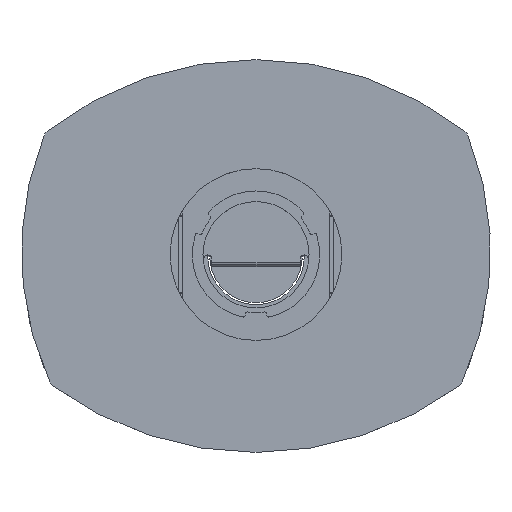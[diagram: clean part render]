
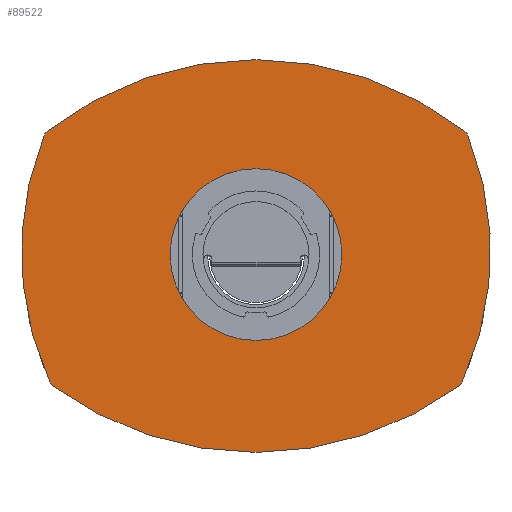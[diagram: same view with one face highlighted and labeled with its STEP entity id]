
A CAD part, top view. The second image highlights one B-rep face of the part: STEP entity #89522.
In plain terms, the highlighted planar face has unit normal (0, 0, 1).
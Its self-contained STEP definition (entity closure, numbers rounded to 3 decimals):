
#5939=CIRCLE('',#97417,89.);
#5942=CIRCLE('',#97421,10.);
#5943=CIRCLE('',#97423,355.);
#5944=CIRCLE('',#97424,10.);
#5945=CIRCLE('',#97425,323.);
#5946=CIRCLE('',#97426,10.);
#5947=CIRCLE('',#97427,352.);
#5948=CIRCLE('',#97428,10.);
#5949=CIRCLE('',#97429,323.);
#6333=FACE_BOUND('',#15813,.T.);
#10881=FACE_OUTER_BOUND('',#15812,.T.);
#15812=EDGE_LOOP('',(#77550,#77551,#77552,#77553,#77554,#77555,#77556,#77557));
#15813=EDGE_LOOP('',(#77558));
#40390=VERTEX_POINT('',#154618);
#40394=VERTEX_POINT('',#154627);
#40395=VERTEX_POINT('',#154629);
#40396=VERTEX_POINT('',#154633);
#40397=VERTEX_POINT('',#154635);
#40398=VERTEX_POINT('',#154637);
#40399=VERTEX_POINT('',#154639);
#40400=VERTEX_POINT('',#154641);
#40401=VERTEX_POINT('',#154643);
#52777=EDGE_CURVE('',#40390,#40390,#5939,.T.);
#52782=EDGE_CURVE('',#40394,#40395,#5942,.T.);
#52784=EDGE_CURVE('',#40396,#40394,#5943,.T.);
#52785=EDGE_CURVE('',#40397,#40396,#5944,.T.);
#52786=EDGE_CURVE('',#40398,#40397,#5945,.T.);
#52787=EDGE_CURVE('',#40399,#40398,#5946,.T.);
#52788=EDGE_CURVE('',#40400,#40399,#5947,.T.);
#52789=EDGE_CURVE('',#40401,#40400,#5948,.T.);
#52790=EDGE_CURVE('',#40395,#40401,#5949,.T.);
#77550=ORIENTED_EDGE('',*,*,#52782,.F.);
#77551=ORIENTED_EDGE('',*,*,#52784,.F.);
#77552=ORIENTED_EDGE('',*,*,#52785,.F.);
#77553=ORIENTED_EDGE('',*,*,#52786,.F.);
#77554=ORIENTED_EDGE('',*,*,#52787,.F.);
#77555=ORIENTED_EDGE('',*,*,#52788,.F.);
#77556=ORIENTED_EDGE('',*,*,#52789,.F.);
#77557=ORIENTED_EDGE('',*,*,#52790,.F.);
#77558=ORIENTED_EDGE('',*,*,#52777,.T.);
#80357=PLANE('',#97422);
#89522=ADVANCED_FACE('',(#10881,#6333),#80357,.F.);
#97417=AXIS2_PLACEMENT_3D('',#154619,#121342,#121343);
#97421=AXIS2_PLACEMENT_3D('',#154630,#121352,#121353);
#97422=AXIS2_PLACEMENT_3D('',#154632,#121355,#121356);
#97423=AXIS2_PLACEMENT_3D('',#154634,#121357,#121358);
#97424=AXIS2_PLACEMENT_3D('',#154636,#121359,#121360);
#97425=AXIS2_PLACEMENT_3D('',#154638,#121361,#121362);
#97426=AXIS2_PLACEMENT_3D('',#154640,#121363,#121364);
#97427=AXIS2_PLACEMENT_3D('',#154642,#121365,#121366);
#97428=AXIS2_PLACEMENT_3D('',#154644,#121367,#121368);
#97429=AXIS2_PLACEMENT_3D('',#154645,#121369,#121370);
#121342=DIRECTION('center_axis',(0.,0.,
-1.));
#121343=DIRECTION('ref_axis',(1.,0.,0.));
#121352=DIRECTION('center_axis',(0.,0.,
-1.));
#121353=DIRECTION('ref_axis',(-0.776,-0.631,0.));
#121355=DIRECTION('center_axis',(0.,0.,
-1.));
#121356=DIRECTION('ref_axis',(1.,0.,0.));
#121357=DIRECTION('center_axis',(0.,0.,
-1.));
#121358=DIRECTION('ref_axis',(0.599,-0.801,0.));
#121359=DIRECTION('center_axis',(0.,0.,
-1.));
#121360=DIRECTION('ref_axis',(0.776,-0.631,0.));
#121361=DIRECTION('center_axis',(0.,0.,
-1.));
#121362=DIRECTION('ref_axis',(0.924,0.382,0.));
#121363=DIRECTION('center_axis',(0.,0.,
-1.));
#121364=DIRECTION('ref_axis',(0.798,0.602,0.));
#121365=DIRECTION('center_axis',(0.,0.,
-1.));
#121366=DIRECTION('ref_axis',(-0.621,0.784,0.));
#121367=DIRECTION('center_axis',(0.,0.,
-1.));
#121368=DIRECTION('ref_axis',(-0.798,0.602,0.));
#121369=DIRECTION('center_axis',(0.,0.,
-1.));
#121370=DIRECTION('ref_axis',(-0.906,-0.424,0.));
#154618=CARTESIAN_POINT('',(-89.,-150.,351.));
#154619=CARTESIAN_POINT('Origin',(0.,-150.,
351.));
#154627=CARTESIAN_POINT('',(-210.525,-285.84,351.));
#154629=CARTESIAN_POINT('',(-213.687,-281.95,351.));
#154630=CARTESIAN_POINT('Origin',(-204.595,-277.788,351.));
#154632=CARTESIAN_POINT('Origin',(0.,-151.453,
351.));
#154633=CARTESIAN_POINT('',(210.525,-285.84,351.));
#154634=CARTESIAN_POINT('Origin',(0.,0.,
351.));
#154635=CARTESIAN_POINT('',(213.687,-281.95,351.));
#154636=CARTESIAN_POINT('Origin',(204.595,-277.788,351.));
#154637=CARTESIAN_POINT('',(219.469,-26.473,351.));
#154638=CARTESIAN_POINT('Origin',(-80.,-147.5,351.));
#154639=CARTESIAN_POINT('',(216.343,-22.332,351.));
#154640=CARTESIAN_POINT('Origin',(210.197,-30.22,351.));
#154641=CARTESIAN_POINT('',(-216.343,-22.332,351.));
#154642=CARTESIAN_POINT('Origin',(0.,-300.,
351.));
#154643=CARTESIAN_POINT('',(-219.469,-26.473,351.));
#154644=CARTESIAN_POINT('Origin',(-210.197,-30.22,351.));
#154645=CARTESIAN_POINT('Origin',(80.,-147.5,351.));
